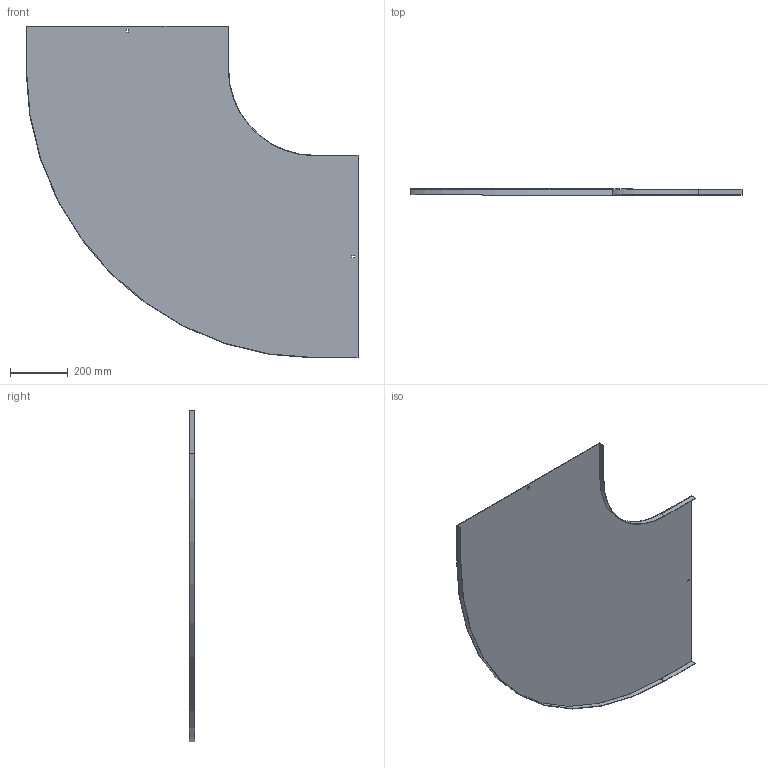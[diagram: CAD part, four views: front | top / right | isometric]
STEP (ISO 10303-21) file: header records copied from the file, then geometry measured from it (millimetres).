
FILE_DESCRIPTION (( 'STEP AP214' ), '1' );
FILE_NAME ('A2_10N3R700.step', '2025-02-21T10:54:02', ( '' ), ( '' ), 'SwSTEP 2.0', 'SolidWorks 2023', '' );
FILE_SCHEMA (( 'AUTOMOTIVE_DESIGN' ));
Length unit declared in the file: millimetre
Products named in the file (1): A2_10N3R700
Bounding box: 1151.5 x 20 x 1151.5 mm (x, y, z)
Volume: 1466154 mm3; surface area: 1961148.1 mm2
Topology: 1 solids, 1 shells, 26 faces, 72 edges, 48 vertices
Faces by surface type: plane 22, cylinder 4
Entity records: 855 total; most frequent: CARTESIAN_POINT 147, ORIENTED_EDGE 144, DIRECTION 134, EDGE_CURVE 72, LINE 64, VECTOR 64, VERTEX_POINT 48, AXIS2_PLACEMENT_3D 35
